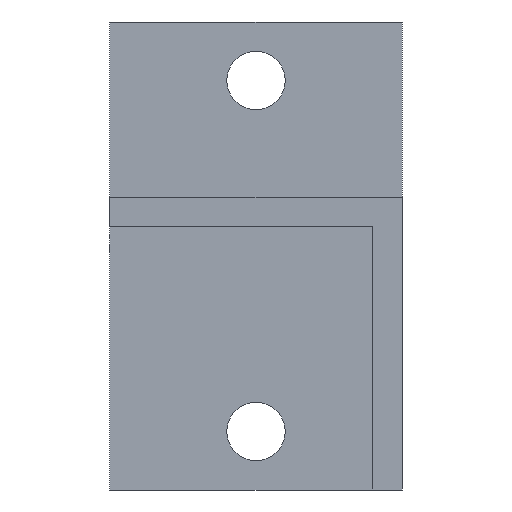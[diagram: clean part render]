
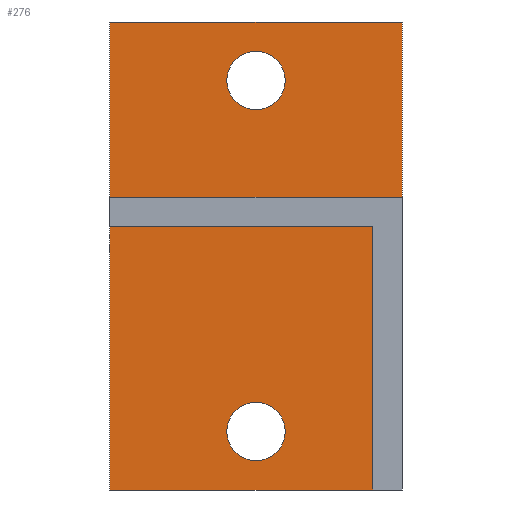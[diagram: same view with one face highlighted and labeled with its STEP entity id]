
A CAD part, front view. The second image highlights one B-rep face of the part: STEP entity #276.
In plain terms, the highlighted planar face has unit normal (0, -1, 0).
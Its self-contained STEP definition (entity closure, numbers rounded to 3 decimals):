
#19=FACE_BOUND('',#57,.T.);
#20=FACE_BOUND('',#58,.T.);
#22=PLANE('',#311);
#38=FACE_OUTER_BOUND('',#56,.T.);
#56=EDGE_LOOP('',(#213,#214,#215,#216));
#57=EDGE_LOOP('',(#217));
#58=EDGE_LOOP('',(#218));
#77=LINE('',#423,#109);
#78=LINE('',#425,#110);
#79=LINE('',#427,#111);
#80=LINE('',#428,#112);
#109=VECTOR('',#348,10.);
#110=VECTOR('',#349,10.);
#111=VECTOR('',#350,10.);
#112=VECTOR('',#351,10.);
#135=CIRCLE('',#305,5.);
#137=CIRCLE('',#308,5.);
#139=VERTEX_POINT('',#400);
#141=VERTEX_POINT('',#406);
#147=VERTEX_POINT('',#421);
#148=VERTEX_POINT('',#422);
#149=VERTEX_POINT('',#424);
#150=VERTEX_POINT('',#426);
#163=EDGE_CURVE('',#139,#139,#135,.T.);
#166=EDGE_CURVE('',#141,#141,#137,.T.);
#173=EDGE_CURVE('',#147,#148,#77,.T.);
#174=EDGE_CURVE('',#148,#149,#78,.T.);
#175=EDGE_CURVE('',#149,#150,#79,.T.);
#176=EDGE_CURVE('',#150,#147,#80,.T.);
#213=ORIENTED_EDGE('',*,*,#173,.T.);
#214=ORIENTED_EDGE('',*,*,#174,.T.);
#215=ORIENTED_EDGE('',*,*,#175,.T.);
#216=ORIENTED_EDGE('',*,*,#176,.T.);
#217=ORIENTED_EDGE('',*,*,#163,.T.);
#218=ORIENTED_EDGE('',*,*,#166,.T.);
#276=ADVANCED_FACE('',(#38,#19,#20),#22,.F.);
#305=AXIS2_PLACEMENT_3D('',#401,#328,#329);
#308=AXIS2_PLACEMENT_3D('',#407,#335,#336);
#311=AXIS2_PLACEMENT_3D('',#420,#346,#347);
#328=DIRECTION('center_axis',(0.,1.,0.));
#329=DIRECTION('ref_axis',(1.,0.,0.));
#335=DIRECTION('center_axis',(0.,1.,0.));
#336=DIRECTION('ref_axis',(1.,0.,0.));
#346=DIRECTION('center_axis',(0.,1.,0.));
#347=DIRECTION('ref_axis',(0.,0.,-1.));
#348=DIRECTION('',(1.,0.,0.));
#349=DIRECTION('',(0.,0.,1.));
#350=DIRECTION('',(-1.,0.,0.));
#351=DIRECTION('',(0.,0.,-1.));
#400=CARTESIAN_POINT('',(20.,0.,-10.));
#401=CARTESIAN_POINT('Origin',(25.,0.,-10.));
#406=CARTESIAN_POINT('',(20.,0.,-70.));
#407=CARTESIAN_POINT('Origin',(25.,0.,-70.));
#420=CARTESIAN_POINT('Origin',(25.,0.,-40.));
#421=CARTESIAN_POINT('',(0.,0.,-80.));
#422=CARTESIAN_POINT('',(50.,0.,-80.));
#423=CARTESIAN_POINT('',(25.,0.,-80.));
#424=CARTESIAN_POINT('',(50.,0.,0.));
#425=CARTESIAN_POINT('',(50.,0.,-40.));
#426=CARTESIAN_POINT('',(0.,0.,0.));
#427=CARTESIAN_POINT('',(25.,0.,0.));
#428=CARTESIAN_POINT('',(0.,0.,-40.));
